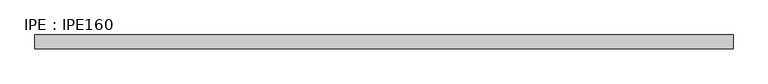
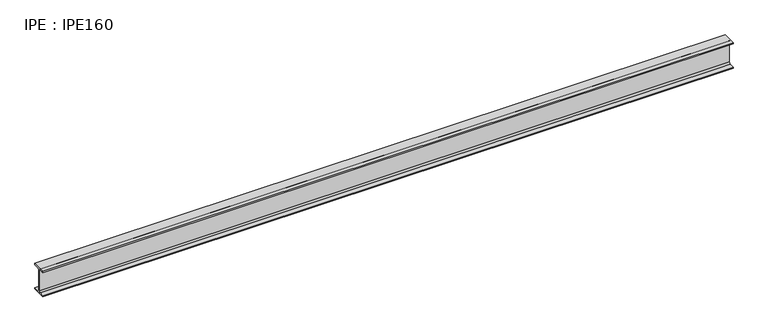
"""IFC4 building model written with IfcOpenShell, lengths in millimetres: beam geometry, IPE : IPE160."""

from ifc_helpers import new_model, si_unit, point, frame, frame_2d, origin, place, context, project, spatial, polyline, circle_curve, trimmed, segment, composite_curve, outline, extrude, source, transform, mapped, element, save


def ipe_ipe160_e94ed6b1(model_context):
    return source(origin(), model_context, "Body", "SweptSolid", [
        extrude(outline(composite_curve([segment(polyline([(41.0, -72.6), (41.0, -80.0), (-41.0, -80.0), (-41.0, -72.6), (-11.5, -72.6)]), True, "CONTINUOUS"), segment(trimmed(circle_curve(frame_2d((-11.5, -63.6)), 9.0), [point((-11.5, -72.6))], [point((-2.5, -63.6))], True, "CARTESIAN"), True, "CONTINUOUS"), segment(polyline([(-2.5, -63.6), (-2.5, 63.6)]), True, "CONTINUOUS"), segment(trimmed(circle_curve(frame_2d((-11.5, 63.6)), 9.0), [point((-2.5, 63.6))], [point((-11.5, 72.6))], True, "CARTESIAN"), True, "CONTINUOUS"), segment(polyline([(-11.5, 72.6), (-41.0, 72.6), (-41.0, 80.0), (41.0, 80.0), (41.0, 72.6), (11.5, 72.6)]), True, "CONTINUOUS"), segment(trimmed(circle_curve(frame_2d((11.5, 63.6)), 9.0), [point((11.5, 72.6))], [point((2.5, 63.6))], True, "CARTESIAN"), True, "CONTINUOUS"), segment(polyline([(2.5, 63.6), (2.5, -63.6)]), True, "CONTINUOUS"), segment(trimmed(circle_curve(frame_2d((11.5, -63.6)), 9.0), [point((2.5, -63.6))], [point((11.5, -72.6))], True, "CARTESIAN"), True, "CONTINUOUS"), segment(polyline([(11.5, -72.6), (41.0, -72.6)]), True, "CONTINUOUS")], self_intersect=False)), frame((-2015.15, 0.0, 0.0), z_axis=(1.0, 0.0, 0.0), x_axis=(0.0, 1.0, 0.0)), (0.0, 0.0, 1.0), 4104.8),
    ])


if __name__ == "__main__":
    model = new_model("IFC4")
    model_context = context("Model", 3, world=origin())
    ifc_project = project(units=[si_unit("LENGTHUNIT", "METRE", prefix="MILLI")], contexts=[model_context])
    site = spatial("IfcSite", under=ifc_project)
    building = spatial("IfcBuilding", under=site)
    placement = place(None, origin())
    ipe_ipe160_shape = ipe_ipe160_e94ed6b1(model_context)
    element("IfcBeam", 1, ObjectType="IPE : IPE160", at=placement, inside=building, context=model_context, shape_type="MappedRepresentation", body=[
        mapped(ipe_ipe160_shape, transform((0.0, 0.0, 0.0), x_axis=(1.0, 0.0, 0.0), y_axis=(0.0, 1.0, 0.0), z_axis=(0.0, 0.0, 1.0))),
    ])
    save(model, "model.ifc")
